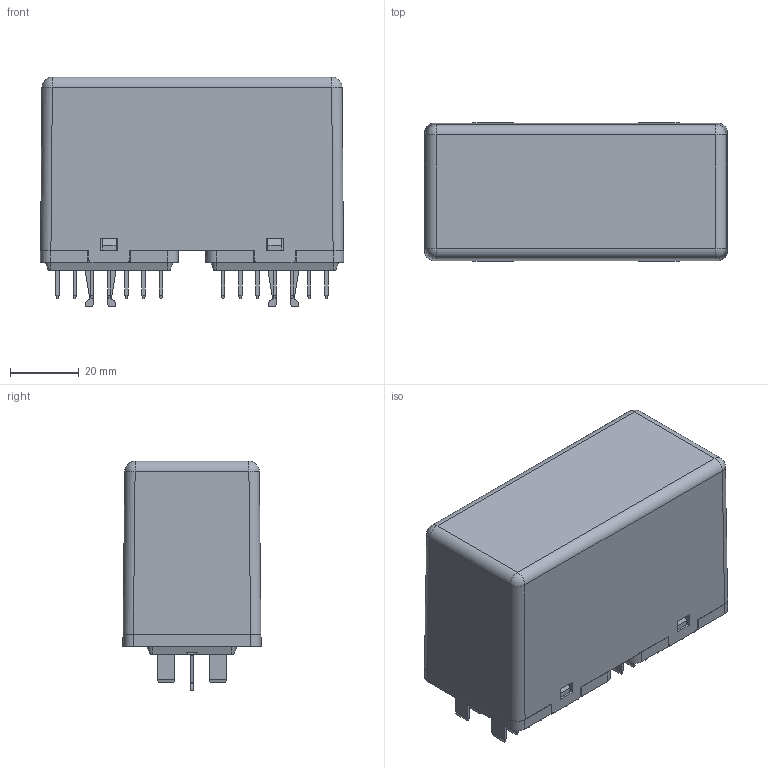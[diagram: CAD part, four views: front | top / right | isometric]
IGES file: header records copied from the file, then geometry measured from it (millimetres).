
Global section: file name: No Iges File Name specified; native system: Autodesk Inventor 2011; preprocessor: AutoDesk Inventor Iges Exporter R2011; author: oey; date: 20110309.083240; units: millimetre
Bounding box: 87.9 x 40.07 x 66.65 mm (x, y, z)
Volume: 48457.6 mm3; surface area: 56464.7 mm2
Topology: 1 solids, 1 shells, 2691 faces, 7918 edges, 5048 vertices
Faces by surface type: plane 1259, bspline 707, cylinder 331, revolution 310, sphere 68, cone 10, torus 6
